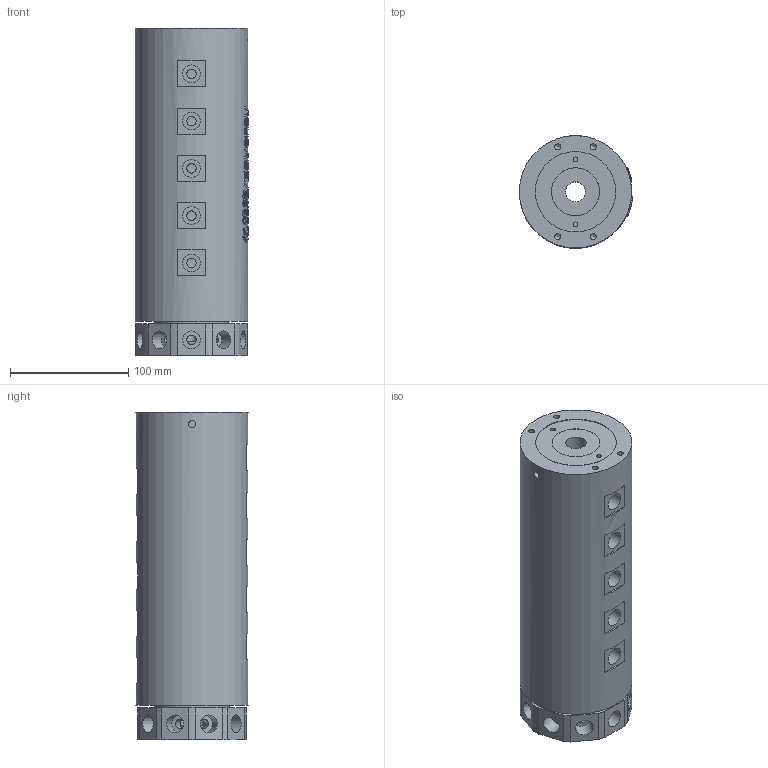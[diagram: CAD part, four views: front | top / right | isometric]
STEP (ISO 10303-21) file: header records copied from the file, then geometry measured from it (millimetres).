
FILE_DESCRIPTION(/* description */ (''),/* implementation_level */ '2;1');
FILE_NAME(/* name */ 'HQ1003.stp',/* time_stamp */ '2025-01-20T14:24:20+08:00',/* author */ (''),/* organization */ (''),/* preprocessor_version */ 'ST-DEVELOPER v16.7',/* originating_system */ 'SIEMENS PLM Software NX 12.0',/* authorisation */ '');
FILE_SCHEMA (('AUTOMOTIVE_DESIGN { 1 0 10303 214 3 1 1 1 }'));
Length unit declared in the file: millimetre
Products named in the file (1): HX056BE06534da3d
Bounding box: 95.86 x 95 x 277 mm (x, y, z)
Volume: 1820350.3 mm3; surface area: 148160.4 mm2
Topology: 1 solids, 1 shells, 580 faces, 1433 edges, 948 vertices
Faces by surface type: plane 317, cylinder 133, extrusion 93, bspline 29, cone 8
Full cylindrical faces by diameter (mm): 4 x2, 5 x8, 6 x2, 8 x30, 8.4 x10, 8.5 x10, 15 x20, 17 x1, 40.5 x1, 40.6 x1, 63 x1, 68 x1, 95 x1
Entity records: 31016 total; most frequent: CARTESIAN_POINT 19051, ORIENTED_EDGE 2502, DIRECTION 2013, EDGE_CURVE 1251, VERTEX_POINT 892, AXIS2_PLACEMENT_3D 834, EDGE_LOOP 795, B_SPLINE_CURVE_WITH_KNOTS 708
